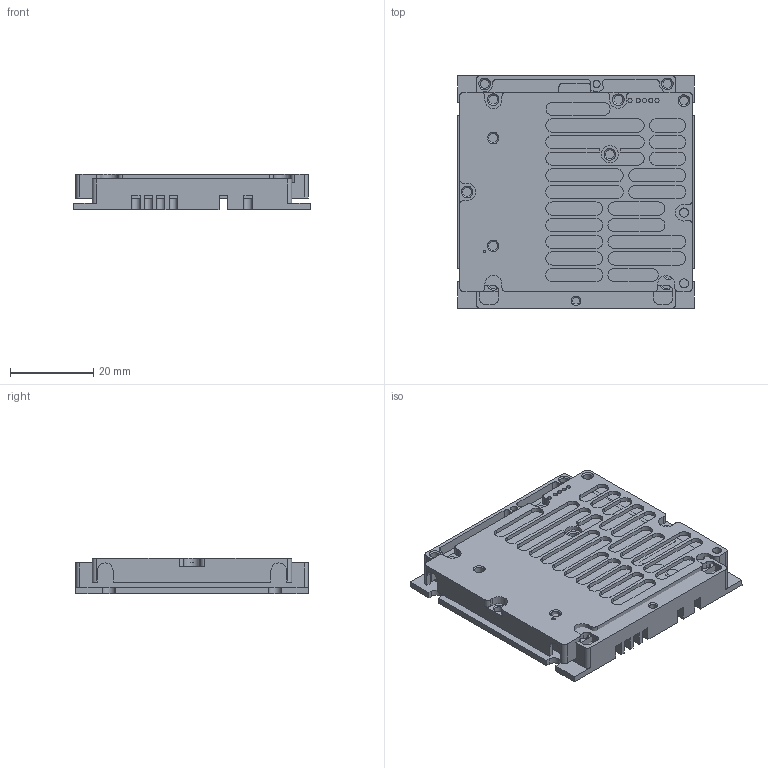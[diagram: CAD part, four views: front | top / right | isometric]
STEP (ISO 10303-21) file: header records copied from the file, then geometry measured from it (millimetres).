
FILE_DESCRIPTION((''),'2;1');
FILE_NAME('C:\Users\Administrator\Desktop\12-2-5jj_asm12-3.stp','2026-02-26T14:24:26',(''),(''),'STEP Write','Mastercam X9 ... CNC Software, Inc.','');
FILE_SCHEMA(('AUTOMOTIVE_DESIGN'));
Length unit declared in the file: millimetre
Products named in the file (1): None
Bounding box: 57 x 56 x 8.5 mm (x, y, z)
Volume: 15776.7 mm3; surface area: 22441.7 mm2
Topology: 3 solids, 3 shells, 612 faces, 1676 edges, 1112 vertices
Faces by surface type: plane 324, cylinder 247, cone 40, torus 1
Full cylindrical faces by diameter (mm): 1 x6, 1.7 x7, 2.2 x15, 3.7 x1, 4.1 x1, 5.8 x1
Entity records: 18857 total; most frequent: DIRECTION 3341, CARTESIAN_POINT 3270, ORIENTED_EDGE 3116, EDGE_CURVE 1558, AXIS2_PLACEMENT_3D 1173, VERTEX_POINT 1066, VECTOR 995, LINE 995
